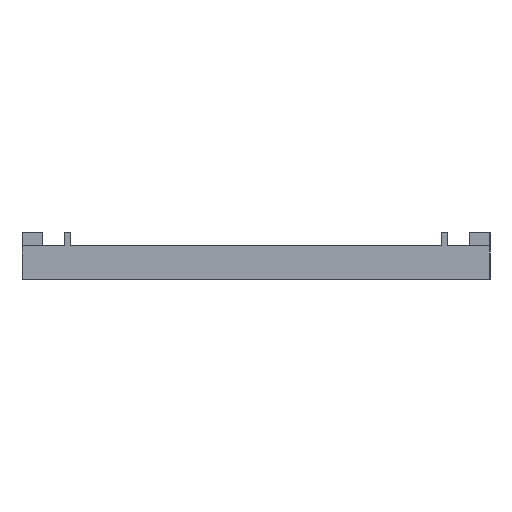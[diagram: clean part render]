
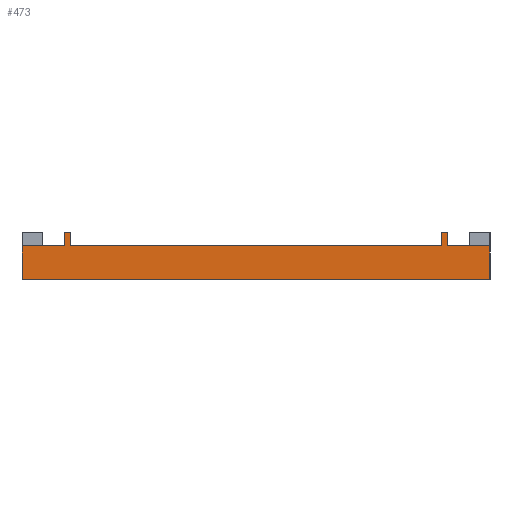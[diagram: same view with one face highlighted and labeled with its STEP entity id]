
A CAD part, left-side view. The second image highlights one B-rep face of the part: STEP entity #473.
In plain terms, the highlighted planar face has unit normal (-1, 0, 0).
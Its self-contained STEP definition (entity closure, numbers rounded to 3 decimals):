
#54 = VERTEX_POINT('',#55);
#55 = CARTESIAN_POINT('',(-69.5,-34.5,0.));
#72 = VERTEX_POINT('',#73);
#73 = CARTESIAN_POINT('',(-69.5,34.5,0.));
#79 = EDGE_CURVE('',#72,#54,#80,.T.);
#80 = LINE('',#81,#82);
#81 = CARTESIAN_POINT('',(-69.5,34.5,0.));
#82 = VECTOR('',#83,1.);
#83 = DIRECTION('',(0.,-1.,0.));
#382 = EDGE_CURVE('',#54,#383,#385,.T.);
#383 = VERTEX_POINT('',#384);
#384 = CARTESIAN_POINT('',(-69.5,-34.5,5.));
#385 = LINE('',#386,#387);
#386 = CARTESIAN_POINT('',(-69.5,-34.5,0.));
#387 = VECTOR('',#388,1.);
#388 = DIRECTION('',(0.,0.,1.));
#473 = ADVANCED_FACE('',(#474),#556,.T.);
#474 = FACE_BOUND('',#475,.T.);
#475 = EDGE_LOOP('',(#476,#484,#485,#486,#494,#502,#510,#518,#526,#534,
    #542,#550));
#476 = ORIENTED_EDGE('',*,*,#477,.F.);
#477 = EDGE_CURVE('',#72,#478,#480,.T.);
#478 = VERTEX_POINT('',#479);
#479 = CARTESIAN_POINT('',(-69.5,34.5,5.));
#480 = LINE('',#481,#482);
#481 = CARTESIAN_POINT('',(-69.5,34.5,0.));
#482 = VECTOR('',#483,1.);
#483 = DIRECTION('',(0.,0.,1.));
#484 = ORIENTED_EDGE('',*,*,#79,.T.);
#485 = ORIENTED_EDGE('',*,*,#382,.T.);
#486 = ORIENTED_EDGE('',*,*,#487,.F.);
#487 = EDGE_CURVE('',#488,#383,#490,.T.);
#488 = VERTEX_POINT('',#489);
#489 = CARTESIAN_POINT('',(-69.5,-28.3,5.));
#490 = LINE('',#491,#492);
#491 = CARTESIAN_POINT('',(-69.5,34.5,5.));
#492 = VECTOR('',#493,1.);
#493 = DIRECTION('',(0.,-1.,0.));
#494 = ORIENTED_EDGE('',*,*,#495,.T.);
#495 = EDGE_CURVE('',#488,#496,#498,.T.);
#496 = VERTEX_POINT('',#497);
#497 = CARTESIAN_POINT('',(-69.5,-28.3,7.));
#498 = LINE('',#499,#500);
#499 = CARTESIAN_POINT('',(-69.5,-28.3,5.));
#500 = VECTOR('',#501,1.);
#501 = DIRECTION('',(0.,0.,1.));
#502 = ORIENTED_EDGE('',*,*,#503,.T.);
#503 = EDGE_CURVE('',#496,#504,#506,.T.);
#504 = VERTEX_POINT('',#505);
#505 = CARTESIAN_POINT('',(-69.5,-27.3,7.));
#506 = LINE('',#507,#508);
#507 = CARTESIAN_POINT('',(-69.5,-28.3,7.));
#508 = VECTOR('',#509,1.);
#509 = DIRECTION('',(0.,1.,0.));
#510 = ORIENTED_EDGE('',*,*,#511,.F.);
#511 = EDGE_CURVE('',#512,#504,#514,.T.);
#512 = VERTEX_POINT('',#513);
#513 = CARTESIAN_POINT('',(-69.5,-27.3,5.));
#514 = LINE('',#515,#516);
#515 = CARTESIAN_POINT('',(-69.5,-27.3,5.));
#516 = VECTOR('',#517,1.);
#517 = DIRECTION('',(0.,0.,1.));
#518 = ORIENTED_EDGE('',*,*,#519,.F.);
#519 = EDGE_CURVE('',#520,#512,#522,.T.);
#520 = VERTEX_POINT('',#521);
#521 = CARTESIAN_POINT('',(-69.5,27.3,5.));
#522 = LINE('',#523,#524);
#523 = CARTESIAN_POINT('',(-69.5,34.5,5.));
#524 = VECTOR('',#525,1.);
#525 = DIRECTION('',(0.,-1.,0.));
#526 = ORIENTED_EDGE('',*,*,#527,.T.);
#527 = EDGE_CURVE('',#520,#528,#530,.T.);
#528 = VERTEX_POINT('',#529);
#529 = CARTESIAN_POINT('',(-69.5,27.3,7.));
#530 = LINE('',#531,#532);
#531 = CARTESIAN_POINT('',(-69.5,27.3,5.));
#532 = VECTOR('',#533,1.);
#533 = DIRECTION('',(0.,0.,1.));
#534 = ORIENTED_EDGE('',*,*,#535,.F.);
#535 = EDGE_CURVE('',#536,#528,#538,.T.);
#536 = VERTEX_POINT('',#537);
#537 = CARTESIAN_POINT('',(-69.5,28.3,7.));
#538 = LINE('',#539,#540);
#539 = CARTESIAN_POINT('',(-69.5,28.3,7.));
#540 = VECTOR('',#541,1.);
#541 = DIRECTION('',(0.,-1.,0.));
#542 = ORIENTED_EDGE('',*,*,#543,.F.);
#543 = EDGE_CURVE('',#544,#536,#546,.T.);
#544 = VERTEX_POINT('',#545);
#545 = CARTESIAN_POINT('',(-69.5,28.3,5.));
#546 = LINE('',#547,#548);
#547 = CARTESIAN_POINT('',(-69.5,28.3,5.));
#548 = VECTOR('',#549,1.);
#549 = DIRECTION('',(0.,0.,1.));
#550 = ORIENTED_EDGE('',*,*,#551,.F.);
#551 = EDGE_CURVE('',#478,#544,#552,.T.);
#552 = LINE('',#553,#554);
#553 = CARTESIAN_POINT('',(-69.5,34.5,5.));
#554 = VECTOR('',#555,1.);
#555 = DIRECTION('',(0.,-1.,0.));
#556 = PLANE('',#557);
#557 = AXIS2_PLACEMENT_3D('',#558,#559,#560);
#558 = CARTESIAN_POINT('',(-69.5,0.,2.705));
#559 = DIRECTION('',(-1.,-0.,-0.));
#560 = DIRECTION('',(0.,0.,-1.));
